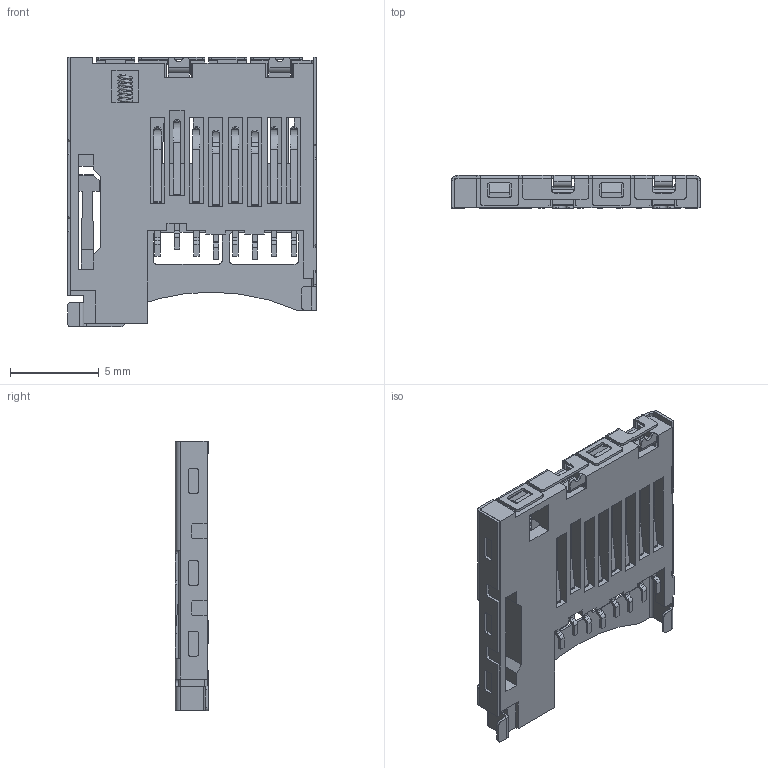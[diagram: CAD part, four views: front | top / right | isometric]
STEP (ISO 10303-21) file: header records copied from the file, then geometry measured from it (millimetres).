
FILE_DESCRIPTION (( 'STEP AP214' ), '1' );
FILE_NAME ('MSDC-PP-03.STEP', '2021-07-12T13:04:52', ( '' ), ( '' ), 'SwSTEP 2.0', 'SolidWorks 2017', '' );
FILE_SCHEMA (( 'AUTOMOTIVE_DESIGN' ));
Length unit declared in the file: millimetre
Products named in the file (1): MSDC-PP-03
Bounding box: 14.05 x 1.88 x 15.25 mm (x, y, z)
Volume: 164.9 mm3; surface area: 1000.6 mm2
Topology: 22 solids, 22 shells, 803 faces, 2176 edges, 1412 vertices
Faces by surface type: plane 567, cylinder 228, torus 6, bspline 2
Entity records: 29329 total; most frequent: CARTESIAN_POINT 8518, ORIENTED_EDGE 4352, DIRECTION 4162, EDGE_CURVE 2176, VECTOR 1662, LINE 1662, VERTEX_POINT 1412, AXIS2_PLACEMENT_3D 1250
